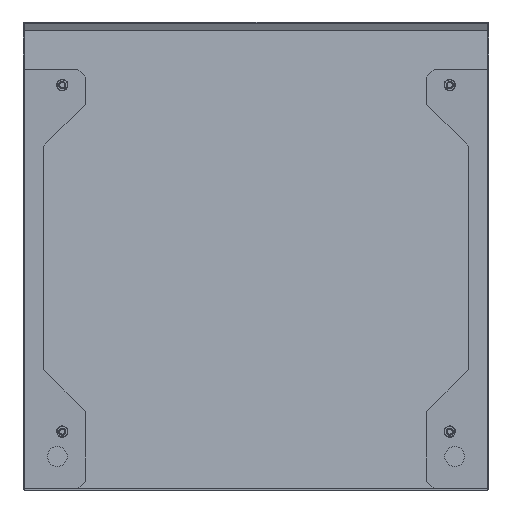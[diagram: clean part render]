
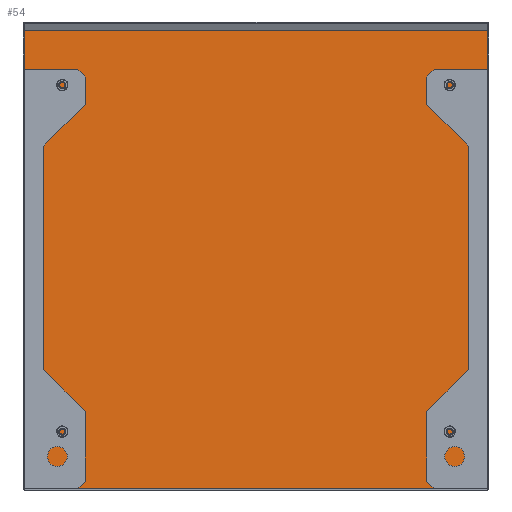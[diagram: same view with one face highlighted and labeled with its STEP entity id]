
A CAD part, front view. The second image highlights one B-rep face of the part: STEP entity #54.
In plain terms, the highlighted planar face has unit normal (0, -0.999, 0.054).
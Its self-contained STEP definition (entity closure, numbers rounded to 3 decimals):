
#54 = ADVANCED_FACE ( 'NONE', ( #815 ), #2043, .F. ) ;
#249 = EDGE_CURVE ( 'NONE', #3689, #3691, #3230, .T. ) ;
#250 = EDGE_CURVE ( 'NONE', #3691, #3690, #3233, .T. ) ;
#251 = EDGE_CURVE ( 'NONE', #3688, #3689, #3236, .T. ) ;
#252 = EDGE_CURVE ( 'NONE', #3690, #3688, #3239, .T. ) ;
#594 = VECTOR ( 'NONE', #3241, 1000. ) ;
#596 = VECTOR ( 'NONE', #3238, 1000. ) ;
#597 = VECTOR ( 'NONE', #3235, 1000. ) ;
#598 = VECTOR ( 'NONE', #3232, 1000. ) ;
#792 = AXIS2_PLACEMENT_3D ( 'NONE', #2044, #2045, #2046 ) ;
#815 = FACE_OUTER_BOUND ( 'NONE', #3931, .T. ) ;
#1625 = ORIENTED_EDGE ( 'NONE', *, *, #252, .F. ) ;
#1626 = ORIENTED_EDGE ( 'NONE', *, *, #249, .F. ) ;
#1627 = ORIENTED_EDGE ( 'NONE', *, *, #251, .F. ) ;
#1628 = ORIENTED_EDGE ( 'NONE', *, *, #250, .F. ) ;
#2043 = PLANE ( 'NONE',  #792 ) ;
#2044 = CARTESIAN_POINT ( 'NONE',  ( -610., 57.67, 604.541 ) ) ;
#2045 = DIRECTION ( 'NONE',  ( 0., 0.999, -0.054 ) ) ;
#2046 = DIRECTION ( 'NONE',  ( 0., 0.054, 0.999 ) ) ;
#2895 = CARTESIAN_POINT ( 'NONE',  ( -2., 57.574, 602.774 ) ) ;
#2896 = CARTESIAN_POINT ( 'NONE',  ( -2., 24.905, 1.967 ) ) ;
#2897 = CARTESIAN_POINT ( 'NONE',  ( -608., 57.574, 602.774 ) ) ;
#2898 = CARTESIAN_POINT ( 'NONE',  ( -608., 24.905, 1.967 ) ) ;
#3230 = LINE ( 'NONE', #3231, #598 ) ;
#3231 = CARTESIAN_POINT ( 'NONE',  ( -610., 24.905, 1.967 ) ) ;
#3232 = DIRECTION ( 'NONE',  ( -1., 0., 0. ) ) ;
#3233 = LINE ( 'NONE', #3234, #597 ) ;
#3234 = CARTESIAN_POINT ( 'NONE',  ( -608., 57.67, 604.541 ) ) ;
#3235 = DIRECTION ( 'NONE',  ( 0., 0.054, 0.999 ) ) ;
#3236 = LINE ( 'NONE', #3237, #596 ) ;
#3237 = CARTESIAN_POINT ( 'NONE',  ( -2., 57.67, 604.541 ) ) ;
#3238 = DIRECTION ( 'NONE',  ( 0., -0.054, -0.999 ) ) ;
#3239 = LINE ( 'NONE', #3240, #594 ) ;
#3240 = CARTESIAN_POINT ( 'NONE',  ( -610., 57.574, 602.774 ) ) ;
#3241 = DIRECTION ( 'NONE',  ( 1., 0., 0. ) ) ;
#3688 = VERTEX_POINT ( 'NONE', #2895 ) ;
#3689 = VERTEX_POINT ( 'NONE', #2896 ) ;
#3690 = VERTEX_POINT ( 'NONE', #2897 ) ;
#3691 = VERTEX_POINT ( 'NONE', #2898 ) ;
#3931 = EDGE_LOOP ( 'NONE', ( #1628, #1626, #1627, #1625 ) ) ;
